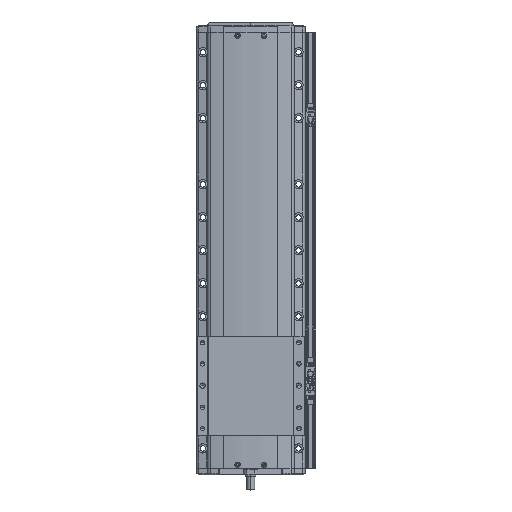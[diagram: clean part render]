
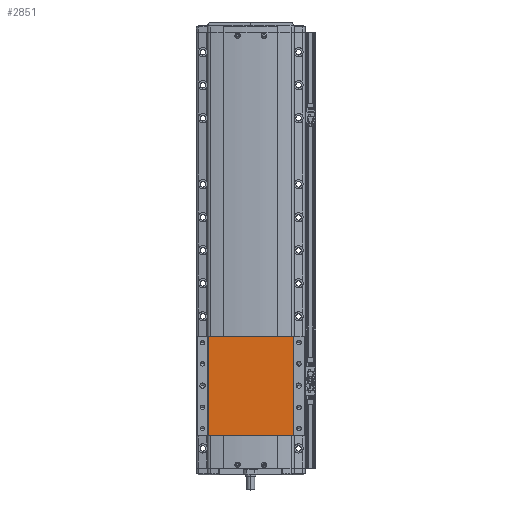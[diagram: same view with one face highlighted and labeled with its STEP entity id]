
A CAD part, top view. The second image highlights one B-rep face of the part: STEP entity #2851.
In plain terms, the highlighted planar face has unit normal (0, 0, 1).
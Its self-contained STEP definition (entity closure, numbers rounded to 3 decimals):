
#2851=ADVANCED_FACE('',(#7853),#7854,.F.);
#7853=FACE_OUTER_BOUND('',#15524,.T.);
#7854=PLANE('',#15525);
#15524=EDGE_LOOP('',(#25569,#25570,#25571,#25572));
#15525=AXIS2_PLACEMENT_3D('',#25573,#25574,#25575);
#25569=ORIENTED_EDGE('',*,*,#47496,.F.);
#25570=ORIENTED_EDGE('',*,*,#47497,.F.);
#25571=ORIENTED_EDGE('',*,*,#47498,.F.);
#25572=ORIENTED_EDGE('',*,*,#47499,.T.);
#25573=CARTESIAN_POINT('',(-600.,172.222,51.5));
#25574=DIRECTION('',(0.,0.,-1.0));
#25575=DIRECTION('',(-1.0,0.,0.));
#47496=EDGE_CURVE('',#56539,#56540,#56541,.T.);
#47497=EDGE_CURVE('',#56542,#56539,#56543,.T.);
#47498=EDGE_CURVE('',#56544,#56542,#56545,.T.);
#47499=EDGE_CURVE('',#56544,#56540,#56546,.T.);
#56539=VERTEX_POINT('',#69683);
#56540=VERTEX_POINT('',#69684);
#56541=LINE('',#69685,#69686);
#56542=VERTEX_POINT('',#69687);
#56543=LINE('',#69688,#69689);
#56544=VERTEX_POINT('',#69690);
#56545=LINE('',#69691,#69692);
#56546=LINE('',#69693,#69694);
#69683=CARTESIAN_POINT('',(-664.376,322.222,51.5));
#69684=CARTESIAN_POINT('',(-535.624,322.222,51.5));
#69685=CARTESIAN_POINT('',(-535.624,322.222,51.5));
#69686=VECTOR('',#88185,10.0);
#69687=CARTESIAN_POINT('',(-664.376,172.222,51.5));
#69688=CARTESIAN_POINT('',(-664.376,172.222,51.5));
#69689=VECTOR('',#88186,10.0);
#69690=CARTESIAN_POINT('',(-535.624,172.222,51.5));
#69691=CARTESIAN_POINT('',(-535.624,172.222,51.5));
#69692=VECTOR('',#88187,10.0);
#69693=CARTESIAN_POINT('',(-535.624,172.222,51.5));
#69694=VECTOR('',#88188,10.0);
#88185=DIRECTION('',(1.0,0.,0.));
#88186=DIRECTION('',(0.,1.0,0.));
#88187=DIRECTION('',(-1.0,0.,0.));
#88188=DIRECTION('',(0.,1.0,0.));
